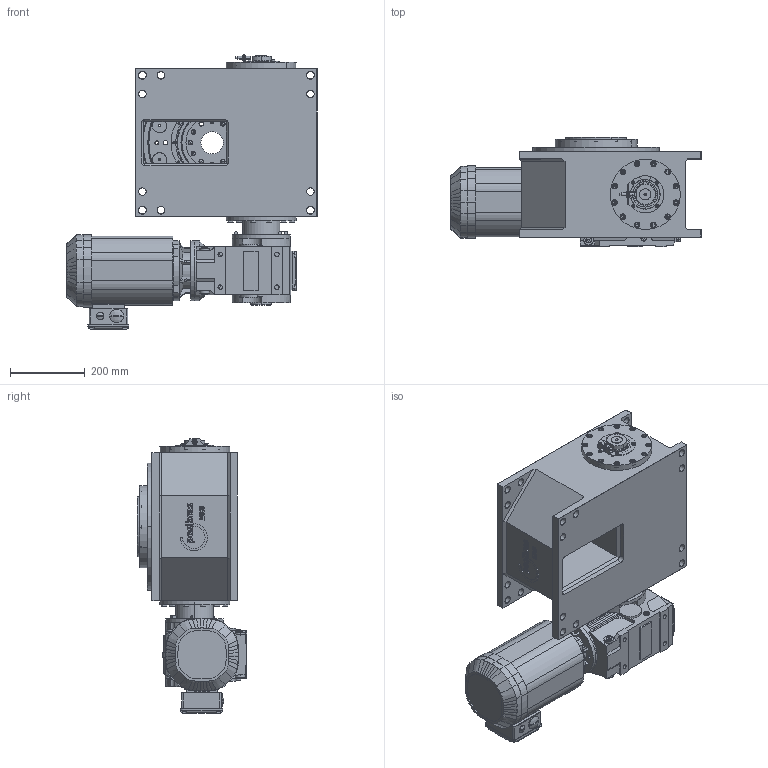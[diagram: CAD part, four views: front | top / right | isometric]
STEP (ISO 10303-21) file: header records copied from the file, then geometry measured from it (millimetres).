
FILE_DESCRIPTION (( 'STEP AP214' ), '1' );
FILE_NAME ('M340_SEW_KA67DRE100L4_D1_10.STEP', '2020-06-17T12:25:09', ( '' ), ( '' ), 'SwSTEP 2.0', 'SolidWorks 2020', '' );
FILE_SCHEMA (( 'AUTOMOTIVE_DESIGN' ));
Length unit declared in the file: millimetre
Products named in the file (1): M340_SEW_KA67DRE100L4_D1_10
Bounding box: 671.5 x 294 x 735.47 mm (x, y, z)
Surface area: 1840868.9 mm2 (no closed solid volume)
Topology: 0 solids, 144 shells, 1854 faces, 5661 edges, 3812 vertices
Faces by surface type: plane 875, cylinder 570, cone 230, torus 92, bspline 83, sphere 4
Entity records: 91427 total; most frequent: CARTESIAN_POINT 21272, DIRECTION 10448, ORIENTED_EDGE 9371, EDGE_CURVE 5605, VERTEX_POINT 3812, AXIS2_PLACEMENT_3D 3695, VECTOR 3058, LINE 3058
